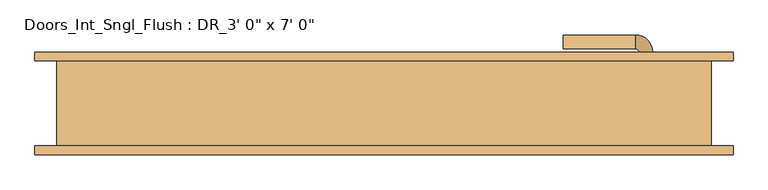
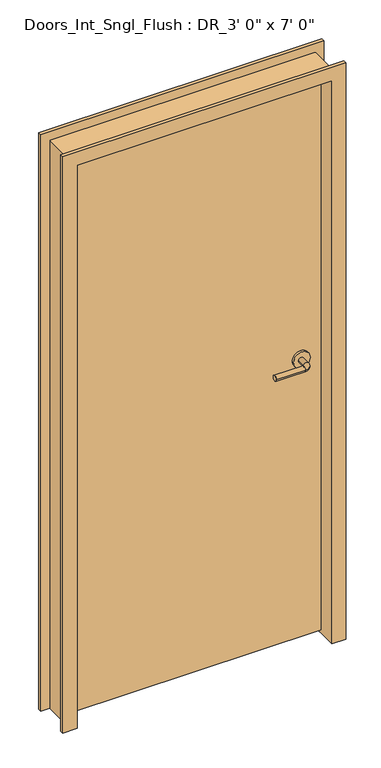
"""IFC4 building model written with IfcOpenShell, lengths in millimetres: door geometry."""

import ifcopenshell
import ifcopenshell.guid

model = None  # the IFC model being written
_history = None  # IfcOwnerHistory: only IFC2X3 demands one
_inside = {}  # id of a spatial element -> (the spatial element, [elements in it])
_under = {}  # id of a project, library or spatial element -> (it, [spatial elements below it])
_declared = {}  # id of a project -> (the project, [libraries it declares])
_typed = {}  # id of a type object -> (the type object, [elements of that type])
_made_of = {}  # id of a material, layer set ... -> (it, [elements and type objects made of it])


def new_model(schema):
    """Start an empty IFC model of exactly this schema.

    Asked for "IFC4X3", IfcOpenShell would pick the latest addendum, in which some entities
    have other attributes; the version numbers below select the first issue.
    IFC2X3 requires an IfcOwnerHistory on every rooted entity: one is made here for all.
    """
    global model, _history
    if schema == "IFC4X3":
        model = ifcopenshell.file(schema_version=(4, 3, 0, 0))
    else:
        model = ifcopenshell.file(schema=schema)
    _inside.clear()
    _under.clear()
    _declared.clear()
    _typed.clear()
    _made_of.clear()
    _history = None
    if model.schema == "IFC2X3":
        org = make("IfcOrganization", Name="unknown")
        user = make(
            "IfcPersonAndOrganization",
            ThePerson=make("IfcPerson", FamilyName="unknown"),
            TheOrganization=org,
        )
        app = make(
            "IfcApplication",
            ApplicationDeveloper=org,
            Version="unknown",
            ApplicationFullName="unknown",
            ApplicationIdentifier="unknown",
        )
        _history = make(
            "IfcOwnerHistory",
            OwningUser=user,
            OwningApplication=app,
            ChangeAction="ADDED",
            CreationDate=0,
        )
    return model


def make(cls, **values):
    """One entity of the class cls with the attributes given. An attribute that is None is left unset."""
    return model.create_entity(
        cls, **{name: value for name, value in values.items() if value is not None}
    )


def rooted(cls, **values):
    """An entity with a GlobalId (a new one), such as an element, a storey or a relation."""
    return make(cls, GlobalId=ifcopenshell.guid.new(), OwnerHistory=_history, **values)


def si_unit(unit_type, name, prefix=None):
    """IfcSIUnit, for example si_unit("LENGTHUNIT", "METRE", prefix="MILLI")."""
    return make("IfcSIUnit", UnitType=unit_type, Prefix=prefix, Name=name)


def assignment(units):
    """IfcUnitAssignment: the units of a project."""
    return None if units is None else make("IfcUnitAssignment", Units=units)


def point(xyz):
    """IfcCartesianPoint."""
    return None if xyz is None else make("IfcCartesianPoint", Coordinates=xyz)


def direction(xyz):
    """IfcDirection."""
    return None if xyz is None else make("IfcDirection", DirectionRatios=xyz)


def frame(location, z_axis=None, x_axis=None):
    """IfcAxis2Placement3D, a coordinate frame: its origin and axes. An axis left out is left unset."""
    return make(
        "IfcAxis2Placement3D",
        Location=point(location),
        Axis=direction(z_axis),
        RefDirection=direction(x_axis),
    )


def frame_2d(location, x_axis=None):
    """IfcAxis2Placement2D, a coordinate frame in the plane: its origin and x axis."""
    return make(
        "IfcAxis2Placement2D", Location=point(location), RefDirection=direction(x_axis)
    )


def origin():
    """The frame at (0, 0, 0) with its axes left unset."""
    return frame((0.0, 0.0, 0.0))


def place(relative_to, where):
    """IfcLocalPlacement: puts the frame where relative to a parent placement (None: the world)."""
    return make(
        "IfcLocalPlacement", PlacementRelTo=relative_to, RelativePlacement=where
    )


def context(
    kind, dimensions, precision=None, world=None, true_north=None, identifier=None
):
    """IfcGeometricRepresentationContext, for example the 3D "Model" context."""
    return make(
        "IfcGeometricRepresentationContext",
        ContextIdentifier=identifier,
        ContextType=kind,
        CoordinateSpaceDimension=dimensions,
        Precision=precision,
        WorldCoordinateSystem=world,
        TrueNorth=true_north,
    )


def project(units=None, contexts=None):
    """IfcProject with its units and contexts."""
    return rooted(
        "IfcProject",
        Name="project",
        RepresentationContexts=contexts,
        UnitsInContext=assignment(units),
    )


def spatial(cls, under=None, at=None, **own):
    """A site, building, storey or space (cls), placed at a placement, below another one or the project."""
    s = rooted(cls, ObjectPlacement=at, **own)
    if under is not None:
        _under.setdefault(under.id(), (under, []))[1].append(s)
    return s


def polyline(points):
    """IfcPolyline through the points."""
    return make("IfcPolyline", Points=[point(p) for p in points])


def circle_curve(where, radius):
    """IfcCircle in the frame where."""
    return make("IfcCircle", Position=where, Radius=radius)


def ellipse_curve(where, semi_axis1, semi_axis2):
    """IfcEllipse in the frame where."""
    return make(
        "IfcEllipse", Position=where, SemiAxis1=semi_axis1, SemiAxis2=semi_axis2
    )


def trimmed(basis, trim1, trim2, sense, master):
    """IfcTrimmedCurve: the piece of a basis curve between two trims."""
    return make(
        "IfcTrimmedCurve",
        BasisCurve=basis,
        Trim1=trim1,
        Trim2=trim2,
        SenseAgreement=sense,
        MasterRepresentation=master,
    )


def segment(curve, same_sense, transition):
    """IfcCompositeCurveSegment."""
    return make(
        "IfcCompositeCurveSegment",
        Transition=transition,
        SameSense=same_sense,
        ParentCurve=curve,
    )


def composite_curve(segments, self_intersect=None):
    """IfcCompositeCurve: segments joined end to end."""
    return make("IfcCompositeCurve", Segments=segments, SelfIntersect=self_intersect)


def outline(outer, holes=None, kind="AREA"):
    """IfcArbitraryClosedProfileDef: a profile drawn as a closed curve; with holes, ...WithVoids."""
    if holes is None:
        return make("IfcArbitraryClosedProfileDef", ProfileType=kind, OuterCurve=outer)
    return make(
        "IfcArbitraryProfileDefWithVoids",
        ProfileType=kind,
        OuterCurve=outer,
        InnerCurves=holes,
    )


def extrude(swept, where, along, depth):
    """IfcExtrudedAreaSolid: the profile swept, set in the frame where, extruded along a direction by depth."""
    return make(
        "IfcExtrudedAreaSolid",
        SweptArea=swept,
        Position=where,
        ExtrudedDirection=direction(along),
        Depth=depth,
    )


def faces_of(points, faces, orient=None, outer=None):
    """IfcFace entities. A face is a list of loops; a loop is a list of indices into points, from 0.

    orient and outer hold one flag for each loop. By default every Orientation is true, the
    first loop of a face is its IfcFaceOuterBound and the others are IfcFaceBound.
    """
    made = []
    for i, loops in enumerate(faces):
        bounds = []
        for j, loop in enumerate(loops):
            is_outer = j == 0 if outer is None else outer[i][j]
            bounds.append(
                make(
                    "IfcFaceOuterBound" if is_outer else "IfcFaceBound",
                    Bound=make("IfcPolyLoop", Polygon=[points[k] for k in loop]),
                    Orientation=True if orient is None else orient[i][j],
                )
            )
        made.append(make("IfcFace", Bounds=bounds))
    return made


def faceted_brep(points, faces, orient=None, outer=None, voids=None):
    """IfcFacetedBrep: a solid bounded by flat faces; with voids (closed shells), ...WithVoids."""
    shared = [point(p) for p in points]
    hull = make("IfcClosedShell", CfsFaces=faces_of(shared, faces, orient, outer))
    if voids is None:
        return make("IfcFacetedBrep", Outer=hull)
    return make(
        "IfcFacetedBrepWithVoids",
        Outer=hull,
        Voids=[
            make(cls, CfsFaces=faces_of(shared, fs, o, b)) for cls, fs, o, b in voids
        ],
    )


def shape(context_of_items, identifier, shape_type, items):
    """IfcShapeRepresentation: the items that make up one representation, for example the "Body"."""
    return make(
        "IfcShapeRepresentation",
        ContextOfItems=context_of_items,
        RepresentationIdentifier=identifier,
        RepresentationType=shape_type,
        Items=items,
    )


def source(mapping_origin, context_of_items, identifier, shape_type, items):
    """IfcRepresentationMap: a shape defined once, which mapped items show again and again."""
    return make(
        "IfcRepresentationMap",
        MappingOrigin=mapping_origin,
        MappedRepresentation=shape(context_of_items, identifier, shape_type, items),
    )


def transform(
    local_origin,
    x_axis=None,
    y_axis=None,
    z_axis=None,
    scale=None,
    scale2=None,
    scale3=None,
    uniform=True,
):
    """IfcCartesianTransformationOperator3D, or its non-uniform kind. x_axis, y_axis, z_axis: its Axis1, 2, 3."""
    if uniform:
        return make(
            "IfcCartesianTransformationOperator3D",
            Axis1=direction(x_axis),
            Axis2=direction(y_axis),
            LocalOrigin=point(local_origin),
            Scale=scale,
            Axis3=direction(z_axis),
        )
    return make(
        "IfcCartesianTransformationOperator3DnonUniform",
        Axis1=direction(x_axis),
        Axis2=direction(y_axis),
        LocalOrigin=point(local_origin),
        Scale=scale,
        Axis3=direction(z_axis),
        Scale2=scale2,
        Scale3=scale3,
    )


def mapped(mapping_source, mapping_target):
    """IfcMappedItem: shows the shape of a source again, moved by a transform."""
    return make(
        "IfcMappedItem", MappingSource=mapping_source, MappingTarget=mapping_target
    )


def made_of(thing, what):
    """Note that an element or type object is made of a material, layer set ...; save() writes the relation."""
    if what is not None:
        _made_of.setdefault(what.id(), (what, []))[1].append(thing)
    return thing


def element(
    cls,
    number,
    at=None,
    inside=None,
    cuts=None,
    type_object=None,
    material=None,
    context=None,
    identifier="Body",
    shape_type=None,
    held_by="IfcProductDefinitionShape",
    body=None,
    shapes=None,
    **own,
):
    """One element of the class cls, such as IfcWall. Its Tag is "e" and its number.

    at: its placement. inside: the storey or other place that contains it. cuts: it is an
    opening in that element (IfcRelVoidsElement). A single representation is given by context,
    identifier, shape_type and body (its items); several are given by shapes. held_by: the class
    of the entity that holds the representations. save() writes the other relations.
    """
    e = rooted(cls, Tag="e%d" % number, ObjectPlacement=at, **own)
    if body is not None:
        shapes = [shape(context, identifier, shape_type, body)]
    if shapes is not None:
        e.Representation = make(held_by, Representations=shapes)
    if inside is not None:
        _inside.setdefault(inside.id(), (inside, []))[1].append(e)
    if cuts is not None:
        rooted(
            "IfcRelVoidsElement", RelatingBuildingElement=cuts, RelatedOpeningElement=e
        )
    if type_object is not None:
        _typed.setdefault(type_object.id(), (type_object, []))[1].append(e)
    return made_of(e, material)


def aggregate(whole, parts):
    """IfcRelAggregates: a whole, such as a stair, and the parts it consists of."""
    return rooted("IfcRelAggregates", RelatingObject=whole, RelatedObjects=parts)


def save(model, path):
    """Write the relations noted so far, then the file.

    IfcRelAggregates (storeys below a building ...), IfcRelContainedInSpatialStructure (elements
    in a storey), IfcRelDefinesByType, IfcRelAssociatesMaterial and IfcRelDeclares: one each for
    every whole, place, type object, material and project.
    """
    for whole, parts in _under.values():
        aggregate(whole, parts)
    for where, things in _inside.values():
        rooted(
            "IfcRelContainedInSpatialStructure",
            RelatedElements=things,
            RelatingStructure=where,
        )
    for kind, things in _typed.values():
        rooted("IfcRelDefinesByType", RelatedObjects=things, RelatingType=kind)
    for what, things in _made_of.values():
        rooted("IfcRelAssociatesMaterial", RelatedObjects=things, RelatingMaterial=what)
    for by, libraries in _declared.values():
        rooted("IfcRelDeclares", RelatingContext=by, RelatedDefinitions=libraries)
    model.write(path)


def plane_surface(at):
    """IfcPlane: the flat surface through the origin of the frame at, square to its z axis."""
    return make("IfcPlane", Position=at)


def cylinder_surface(at, radius):
    """IfcCylindricalSurface: all points at the distance radius from the z axis of the frame at."""
    return make("IfcCylindricalSurface", Position=at, Radius=radius)


def revolved_surface(curve, axis_point, axis_direction):
    """IfcSurfaceOfRevolution: the curve turned about the line through axis_point along axis_direction."""
    return make(
        "IfcSurfaceOfRevolution",
        SweptCurve=make("IfcArbitraryOpenProfileDef", ProfileType="CURVE", Curve=curve),
        AxisPosition=make("IfcAxis1Placement", Location=point(axis_point), Axis=direction(axis_direction)),
    )


def advanced_brep(points, edges, surfaces, faces):
    """IfcAdvancedBrep: a solid bounded by faces that lie on surfaces and meet in shared edges.

    An edge is (start, end): straight between two places in points (the first is 0);
    or (start, end, curve); or (start, end, curve, False) where it runs against its curve.
    A face is (place in surfaces, loops), or (place, loops, False) where it looks against
    its surface's normal. A loop lists edges by number (the first is 1), with a minus sign
    where the edge is run from its end to its start. The first loop is the outer one.
    """
    corners = [point(p) for p in points]
    vertices = [make("IfcVertexPoint", VertexGeometry=c) for c in corners]
    made = []
    for start, end, *more in edges:
        made.append(
            make(
                "IfcEdgeCurve",
                EdgeStart=vertices[start],
                EdgeEnd=vertices[end],
                EdgeGeometry=more[0] if more else make("IfcPolyline", Points=[corners[start], corners[end]]),
                SameSense=more[1] if len(more) > 1 else True,
            )
        )
    hull = []
    for where, loops, *sense in faces:
        bounds = []
        for j, loop in enumerate(loops):
            ring = [make("IfcOrientedEdge", EdgeElement=made[abs(k) - 1], Orientation=k > 0) for k in loop]
            bounds.append(
                make(
                    "IfcFaceOuterBound" if j == 0 else "IfcFaceBound",
                    Bound=make("IfcEdgeLoop", EdgeList=ring),
                    Orientation=True,
                )
            )
        hull.append(make("IfcAdvancedFace", Bounds=bounds, FaceSurface=surfaces[where], SameSense=sense[0] if sense else True))
    return make("IfcAdvancedBrep", Outer=make("IfcClosedShell", CfsFaces=hull))


def door_1de4d516(model_context):
    return source(origin(), model_context, "Body", "SolidModel", [
        advanced_brep(
        [(391.0, 44.5125, 1066.8), (371.0, 44.5125, 1066.8), (371.0, 74.5125, 1066.8), (391.0, 74.5125, 1066.8), (366.0, 79.5125, 1066.8), (366.0, 99.5125, 1066.8), (261.0, 99.5125, 1066.8), (261.0, 79.5125, 1066.8)],
        [
            (0, 1, circle_curve(frame((381.0, 44.5125, 1066.8), z_axis=(0.0, -1.0, 0.0), x_axis=(-1.0, 0.0, 0.0)), 10.0)),
            (1, 0, circle_curve(frame((381.0, 44.5125, 1066.8), z_axis=(0.0, -1.0, 0.0), x_axis=(-1.0, 0.0, 0.0)), 10.0)),
            (1, 2),
            (2, 3, circle_curve(frame((381.0, 74.5125, 1066.8), z_axis=(0.0, -1.0, 0.0), x_axis=(-1.0, 0.0, 0.0)), 10.0)),
            (3, 0),
            (3, 2, circle_curve(frame((381.0, 74.5125, 1066.8), z_axis=(0.0, -1.0, 0.0), x_axis=(-1.0, 0.0, 0.0)), 10.0)),
            (4, 5, circle_curve(frame((366.0, 89.5125, 1066.8), z_axis=(1.0, 0.0, 0.0), x_axis=(0.0, -1.0, 0.0)), 10.0)),
            (5, 3, circle_curve(frame((366.0, 74.5125, 1066.8), z_axis=(0.0, 0.0, -1.0), x_axis=(1.0, 0.0, 0.0)), 25.0)),
            (2, 4, circle_curve(frame((366.0, 74.5125, 1066.8), z_axis=(0.0, 0.0, 1.0), x_axis=(1.0, 0.0, 0.0)), 5.0)),
            (5, 4, circle_curve(frame((366.0, 89.5125, 1066.8), z_axis=(1.0, 0.0, 0.0), x_axis=(0.0, -1.0, 0.0)), 10.0)),
            (6, 7, circle_curve(frame((261.0, 89.5125, 1066.8), z_axis=(-1.0, 0.0, 0.0), x_axis=(0.0, -1.0, 0.0)), 10.0)),
            (7, 6, circle_curve(frame((261.0, 89.5125, 1066.8), z_axis=(-1.0, 0.0, 0.0), x_axis=(0.0, -1.0, 0.0)), 10.0)),
            (4, 7),
            (6, 5),
        ],
        [
            plane_surface(frame((381.0, 44.5125, 1066.8), z_axis=(0.0, -1.0, 0.0), x_axis=(0.0, 0.0, 1.0))),
            cylinder_surface(frame((381.0, 44.5125, 1066.8), z_axis=(0.0, -1.0, 0.0), x_axis=(-1.0, 0.0, 0.0)), 10.0),
            revolved_surface(trimmed(ellipse_curve(frame((381.0, 74.5125, 1066.8), z_axis=(0.0, 1.0, 0.0), x_axis=(-1.0, 0.0, 0.0)), 10.0, 10.0), [point((391.0, 74.5125, 1066.8))], [point((371.0, 74.5125, 1066.8))], True, "CARTESIAN"), (366.0, 74.5125, 1066.8), (0.0, 0.0, -1.0)),
            revolved_surface(trimmed(ellipse_curve(frame((381.0, 74.5125, 1066.8), z_axis=(0.0, 1.0, 0.0), x_axis=(-1.0, 0.0, 0.0)), 10.0, 10.0), [point((371.0, 74.5125, 1066.8))], [point((391.0, 74.5125, 1066.8))], True, "CARTESIAN"), (366.0, 74.5125, 1066.8), (0.0, 0.0, -1.0)),
            plane_surface(frame((261.0, 89.5125, 1066.8), z_axis=(-1.0, 0.0, 0.0), x_axis=(0.0, 0.0, 1.0))),
            cylinder_surface(frame((366.0, 89.5125, 1066.8), z_axis=(1.0, 0.0, 0.0), x_axis=(0.0, -1.0, 0.0)), 10.0),
        ],
        [
            (0, [[1, 2]]),
            (1, [[3, 4, 5, -2]]),
            (1, [[-5, 6, -3, -1]]),
            (2, [[7, 8, -4, 9]]),
            (3, [[10, -9, -6, -8]]),
            (4, [[11, 12]]),
            (5, [[13, -11, 14, -7]]),
            (5, [[-14, -12, -13, -10]]),
        ],
    ),
        extrude(outline(composite_curve([segment(trimmed(circle_curve(frame_2d((1066.8, 383.5)), 30.0), [point((1066.8, 413.5))], [point((1066.8, 353.5))], False, "CARTESIAN"), True, "CONTINUOUS"), segment(trimmed(circle_curve(frame_2d((1066.8, 383.5)), 30.0), [point((1066.8, 353.5))], [point((1066.8, 413.5))], False, "CARTESIAN"), True, "CONTINUOUS")], self_intersect=False)), frame((0.0, 36.5125, 0.0), z_axis=(0.0, 1.0, 0.0), x_axis=(0.0, 0.0, 1.0)), (0.0, 0.0, 1.0), 8.0),
        advanced_brep(
        [(391.0, -15.9375, 1066.8), (371.0, -15.9375, 1066.8), (391.0, -45.9375, 1066.8), (371.0, -45.9375, 1066.8), (366.0, -50.9375, 1066.8), (366.0, -70.9375, 1066.8), (261.0, -70.9375, 1066.8), (261.0, -50.9375, 1066.8)],
        [
            (0, 1, circle_curve(frame((381.0, -15.9375, 1066.8), z_axis=(0.0, 1.0, 0.0), x_axis=(-1.0, 0.0, 0.0)), 10.0)),
            (1, 0, circle_curve(frame((381.0, -15.9375, 1066.8), z_axis=(0.0, 1.0, 0.0), x_axis=(-1.0, 0.0, 0.0)), 10.0)),
            (0, 2),
            (2, 3, circle_curve(frame((381.0, -45.9375, 1066.8), z_axis=(0.0, 1.0, 0.0), x_axis=(-1.0, 0.0, 0.0)), 10.0)),
            (3, 1),
            (3, 2, circle_curve(frame((381.0, -45.9375, 1066.8), z_axis=(0.0, 1.0, 0.0), x_axis=(-1.0, 0.0, 0.0)), 10.0)),
            (4, 3, circle_curve(frame((366.0, -45.9375, 1066.8), z_axis=(0.0, 0.0, 1.0), x_axis=(1.0, 0.0, 0.0)), 5.0)),
            (2, 5, circle_curve(frame((366.0, -45.9375, 1066.8), z_axis=(0.0, 0.0, -1.0), x_axis=(1.0, 0.0, 0.0)), 25.0)),
            (5, 4, circle_curve(frame((366.0, -60.9375, 1066.8), z_axis=(1.0, 0.0, 0.0), x_axis=(0.0, 1.0, 0.0)), 10.0)),
            (4, 5, circle_curve(frame((366.0, -60.9375, 1066.8), z_axis=(1.0, 0.0, 0.0), x_axis=(0.0, 1.0, 0.0)), 10.0)),
            (6, 7, circle_curve(frame((261.0, -60.9375, 1066.8), z_axis=(-1.0, 0.0, 0.0), x_axis=(0.0, 1.0, 0.0)), 10.0)),
            (7, 6, circle_curve(frame((261.0, -60.9375, 1066.8), z_axis=(-1.0, 0.0, 0.0), x_axis=(0.0, 1.0, 0.0)), 10.0)),
            (5, 6),
            (7, 4),
        ],
        [
            plane_surface(frame((381.0, -15.9375, 1066.8), z_axis=(0.0, 1.0, 0.0), x_axis=(0.0, 0.0, 1.0))),
            cylinder_surface(frame((381.0, -15.9375, 1066.8), z_axis=(0.0, 1.0, 0.0), x_axis=(-1.0, 0.0, 0.0)), 10.0),
            revolved_surface(trimmed(ellipse_curve(frame((381.0, -45.9375, 1066.8), z_axis=(0.0, 1.0, 0.0), x_axis=(-1.0, 0.0, 0.0)), 10.0, 10.0), [point((391.0, -45.9375, 1066.8))], [point((371.0, -45.9375, 1066.8))], True, "CARTESIAN"), (366.0, -45.9375, 1066.8), (0.0, 0.0, -1.0)),
            revolved_surface(trimmed(ellipse_curve(frame((381.0, -45.9375, 1066.8), z_axis=(0.0, 1.0, 0.0), x_axis=(-1.0, 0.0, 0.0)), 10.0, 10.0), [point((371.0, -45.9375, 1066.8))], [point((391.0, -45.9375, 1066.8))], True, "CARTESIAN"), (366.0, -45.9375, 1066.8), (0.0, 0.0, -1.0)),
            plane_surface(frame((261.0, -60.9375, 1066.8), z_axis=(-1.0, 0.0, 0.0), x_axis=(0.0, 0.0, 1.0))),
            cylinder_surface(frame((366.0, -60.9375, 1066.8), z_axis=(1.0, 0.0, 0.0), x_axis=(0.0, 1.0, 0.0)), 10.0),
        ],
        [
            (0, [[1, 2]]),
            (1, [[-1, 3, 4, 5]]),
            (1, [[-2, -5, 6, -3]]),
            (2, [[7, -4, 8, 9]]),
            (3, [[-8, -6, -7, 10]]),
            (4, [[11, 12]]),
            (5, [[-9, 13, -12, 14]]),
            (5, [[-10, -14, -11, -13]]),
        ],
    ),
        extrude(outline(composite_curve([segment(trimmed(circle_curve(frame_2d((1066.8, 383.5)), 30.0), [point((1066.8, 413.5))], [point((1066.8, 353.5))], False, "CARTESIAN"), True, "CONTINUOUS"), segment(trimmed(circle_curve(frame_2d((1066.8, 383.5)), 30.0), [point((1066.8, 353.5))], [point((1066.8, 413.5))], False, "CARTESIAN"), True, "CONTINUOUS")], self_intersect=False)), frame((0.0, -15.9375, 0.0), z_axis=(0.0, 1.0, 0.0), x_axis=(0.0, 0.0, 1.0)), (0.0, 0.0, 1.0), 8.0),
        extrude(outline(polyline([(-457.2, 36.5125), (457.2, 36.5125), (457.2, -7.9375), (-457.2, -7.9375), (-457.2, 36.5125)])), frame((0.0, 0.0, 12.7), z_axis=(0.0, 0.0, 1.0), x_axis=(1.0, 0.0, 0.0)), (0.0, 0.0, 1.0), 2120.9),
        faceted_brep([(-457.2, -74.6125, 0.0), (-508.0, -74.6125, 0.0), (-508.0, -61.9125, 0.0), (-476.25, -61.9125, 0.0), (-476.25, 61.9125, 0.0), (-508.0, 61.9125, 0.0), (-508.0, 74.6125, 0.0), (-457.2, 74.6125, 0.0), (-457.2, -74.6125, 2133.6), (457.2, -74.6125, 2133.6), (457.2, -74.6125, 0.0), (508.0, -74.6125, 0.0), (508.0, -74.6125, 2184.4), (-508.0, -74.6125, 2184.4), (-508.0, -61.9125, 2184.4), (508.0, -61.9125, 2184.4), (508.0, -61.9125, 0.0), (476.25, -61.9125, 0.0), (476.25, -61.9125, 2152.65), (-476.25, -61.9125, 2152.65), (-476.25, 61.9125, 2152.65), (476.25, 61.9125, 2152.65), (476.25, 61.9125, 0.0), (508.0, 61.9125, 0.0), (508.0, 61.9125, 2184.4), (-508.0, 61.9125, 2184.4), (-508.0, 74.6125, 2184.4), (508.0, 74.6125, 2184.4), (508.0, 74.6125, 0.0), (457.2, 74.6125, 0.0), (457.2, 74.6125, 2133.6), (-457.2, 74.6125, 2133.6)], [[[0, 1, 2, 3, 4, 5, 6, 7]], [[1, 0, 8, 9, 10, 11, 12, 13]], [[2, 1, 13, 14]], [[3, 2, 14, 15, 16, 17, 18, 19]], [[4, 3, 19, 20]], [[5, 4, 20, 21, 22, 23, 24, 25]], [[6, 5, 25, 26]], [[7, 6, 26, 27, 28, 29, 30, 31]], [[0, 7, 31, 8]], [[9, 30, 29, 10]], [[10, 29, 28, 23, 22, 17, 16, 11]], [[15, 12, 11, 16]], [[27, 24, 23, 28]], [[21, 18, 17, 22]], [[20, 19, 18, 21]], [[8, 31, 30, 9]], [[14, 13, 12, 15]], [[26, 25, 24, 27]]]),
    ])


if __name__ == "__main__":
    model = new_model("IFC4")
    model_context = context("Model", 3, world=origin())
    ifc_project = project(units=[si_unit("LENGTHUNIT", "METRE", prefix="MILLI")], contexts=[model_context])
    site = spatial("IfcSite", under=ifc_project)
    building = spatial("IfcBuilding", under=site)
    placement = place(None, origin())
    door_shape = door_1de4d516(model_context)
    element("IfcDoor", 1, ObjectType="Doors_Int_Sngl_Flush : DR_3' 0\" x 7' 0\"", at=placement, inside=building, context=model_context, shape_type="MappedRepresentation", body=[
        mapped(door_shape, transform((0.0, 0.0, 0.0), x_axis=(1.0, 0.0, 0.0), y_axis=(0.0, 1.0, 0.0), z_axis=(0.0, 0.0, 1.0))),
    ])
    save(model, "model.ifc")
